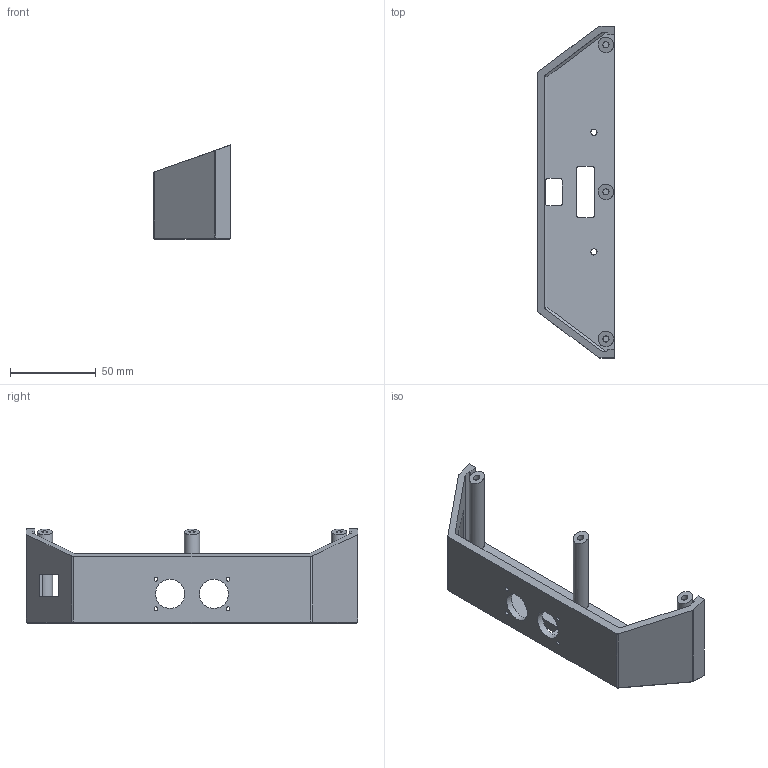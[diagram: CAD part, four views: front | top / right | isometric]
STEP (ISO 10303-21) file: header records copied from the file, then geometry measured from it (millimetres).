
FILE_DESCRIPTION(/* description */ ('STEP AP242 Edition 2','CAx-IF Rec.Pracs.---Representation and Presentation of Product Manufacturing Information (PMI)---4.0---2014-10-13','CAx-IF Rec.Pracs.---3D Tessellated Geometry---0.4---2014-09-14','2;1','CAx-IF Rec.Pracs.---User Defined Attributes---1.5---2016-08-15'),/* implementation_level */ '2;1');
FILE_NAME(/* name */ 'Chassis No Suspension - tail',/* time_stamp */ '2026-10-25T14:46:20Z',/* author */ (''),/* organization */ (''),/* preprocessor_version */ 'ST-DEVELOPER v20',/* originating_system */ 'ONSHAPE BY PTC INC, 1.222',/* authorisation */ ' ');
FILE_SCHEMA (('AP242_MANAGED_MODEL_BASED_3D_ENGINEERING_MIM_LF { 1 0 10303 442 3 1 4 }'));
Length unit declared in the file: metre
Products named in the file (1): tail
Bounding box: 45 x 194 x 55 mm (x, y, z)
Volume: 78469.7 mm3; surface area: 40136.8 mm2
Topology: 1 solids, 1 shells, 101 faces, 277 edges, 184 vertices
Faces by surface type: plane 68, cylinder 33
Full cylindrical faces by diameter (mm): 2.2 x4, 3.6 x8, 9 x3, 17 x2
Entity records: 3267 total; most frequent: CARTESIAN_POINT 595, ORIENTED_EDGE 554, DIRECTION 535, EDGE_CURVE 277, LINE 191, VECTOR 191, VERTEX_POINT 184, AXIS2_PLACEMENT_3D 172
